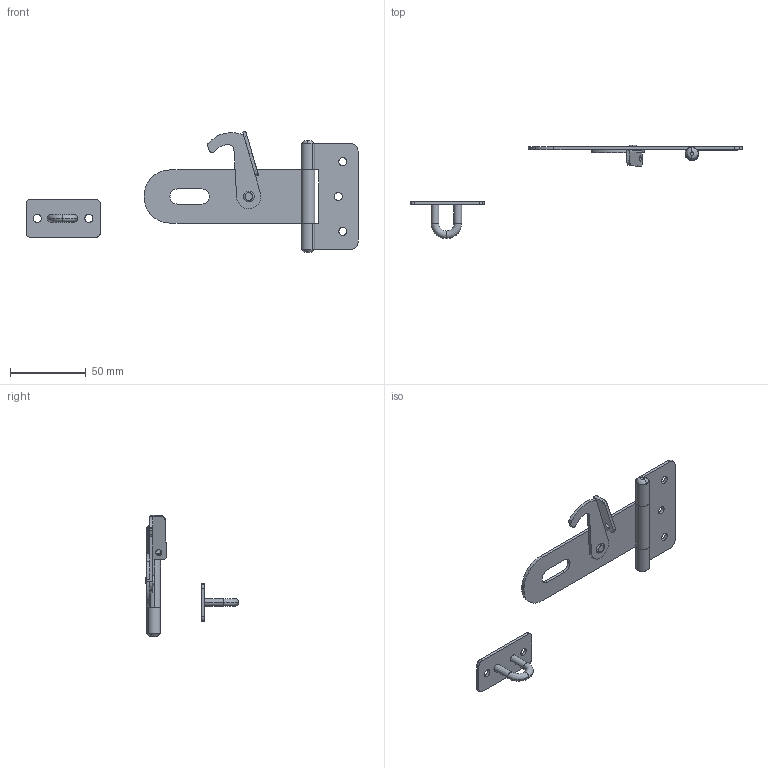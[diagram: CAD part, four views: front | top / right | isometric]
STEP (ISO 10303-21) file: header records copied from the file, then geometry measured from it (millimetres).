
FILE_DESCRIPTION((''),'2;1');
FILE_NAME('3045.stp','2018-01-08T13:18:50',(''),(''),'Mechanical Desktop 2006','Mechanical Desktop 2006',', , ');
FILE_SCHEMA(('CONFIG_CONTROL_DESIGN'));
Length unit declared in the file: millimetre
Products named in the file (8): 3045; TEIL1; ~TEIL1; TEIL2; GR.PL; ~TEIL2; NIT; TEIL3
Assembly tree (7 placements, depth 2):
  3045
    TEIL1
    ~TEIL1
    TEIL2
    GR.PL
    ~TEIL2
    NIT
    TEIL3
Bounding box: 218.93 x 61.49 x 79.96 mm (x, y, z)
Volume: 20192.8 mm3; surface area: 22147.1 mm2
Topology: 7 solids, 7 shells, 141 faces, 364 edges, 241 vertices
Faces by surface type: cylinder 62, bspline 37, plane 34, torus 8
Entity records: 5011 total; most frequent: CARTESIAN_POINT 1265, DIRECTION 790, ORIENTED_EDGE 728, EDGE_CURVE 364, AXIS2_PLACEMENT_3D 314, VERTEX_POINT 241, CIRCLE 202, EDGE_LOOP 167
